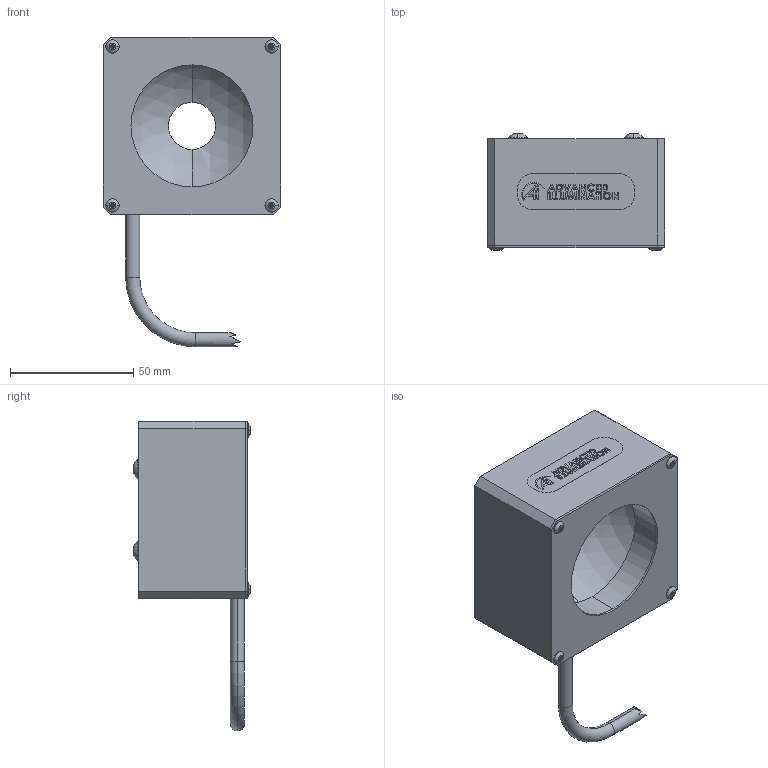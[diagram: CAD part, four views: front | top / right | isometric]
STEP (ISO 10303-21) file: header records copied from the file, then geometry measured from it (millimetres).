
FILE_DESCRIPTION (( 'STEP AP214' ), '1' );
FILE_NAME ('DL2230_Default.stp', '2021-05-17T18:39:38', ( '' ), ( '' ), 'SwSTEP 2.0', 'SolidWorks 2018', '' );
FILE_SCHEMA (( 'AUTOMOTIVE_DESIGN' ));
Length unit declared in the file: inch
Products named in the file (11): 090973_Default<As Machined>; 038-01-002_Default<As Machined>; PHTHF-256x.1875; 091053; BH-M4x8; BH-440X1_4_91239A704; DL2230_Default; 090974_Default<As Machined>; 038-02-003; 092408_TRUNCATED
Assembly tree (16 placements, depth 3):
  DL2230_Default
    038-01-002_Default<As Machined>
    038-02-003
      090974_Default<As Machined>
      090973_Default<As Machined>
    BH-440X1_4_91239A704  x4
    BH-M4x8  x4
    091053
      091053
    PHTHF-256x.1875
    092408_TRUNCATED
Bounding box: 71.88 x 47.6 x 125.58 mm (x, y, z)
Volume: 118148.8 mm3; surface area: 45170 mm2
Topology: 21 solids, 21 shells, 1338 faces, 3053 edges, 1794 vertices
Faces by surface type: cylinder 464, plane 402, cone 361, bspline 71, torus 30, sphere 10
Entity records: 30059 total; most frequent: CARTESIAN_POINT 10348, ORIENTED_EDGE 3362, DIRECTION 3076, EDGE_CURVE 1681, AXIS2_PLACEMENT_3D 1053, VERTEX_POINT 1045, LINE 970, VECTOR 970
